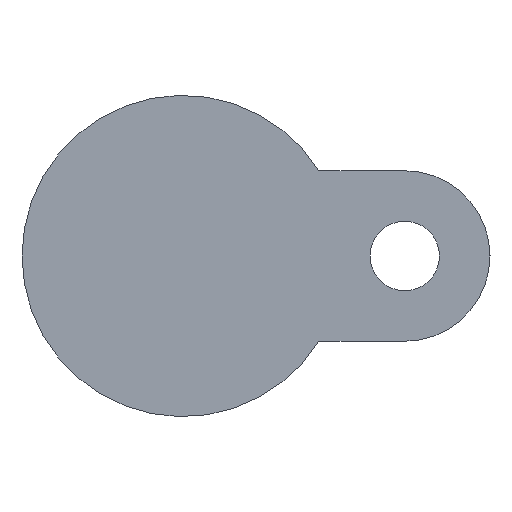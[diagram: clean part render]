
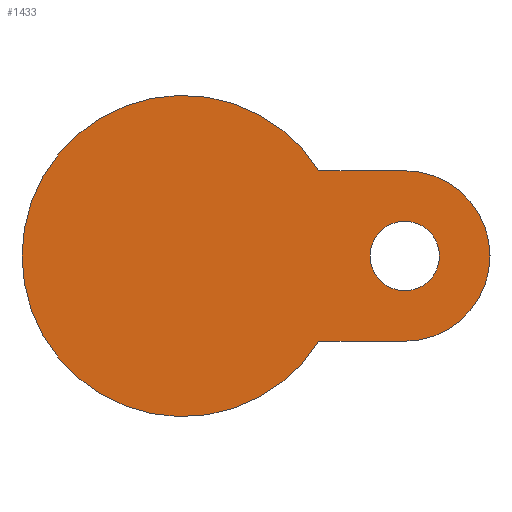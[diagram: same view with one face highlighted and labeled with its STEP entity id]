
A CAD part, front view. The second image highlights one B-rep face of the part: STEP entity #1433.
In plain terms, the highlighted planar face has unit normal (0, -1, 0).
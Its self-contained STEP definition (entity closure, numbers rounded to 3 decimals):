
#14 = CARTESIAN_POINT ( 'NONE',  ( 56., -23., 21.5 ) ) ;
#73 = EDGE_CURVE ( 'NONE', #140, #493, #752, .T. ) ;
#78 = EDGE_CURVE ( 'NONE', #493, #140, #994, .T. ) ;
#82 = EDGE_CURVE ( 'NONE', #566, #176, #768, .T. ) ;
#93 = CARTESIAN_POINT ( 'NONE',  ( 56., -23., 0. ) ) ;
#98 = ORIENTED_EDGE ( 'NONE', *, *, #82, .F. ) ;
#140 = VERTEX_POINT ( 'NONE', #453 ) ;
#153 = CARTESIAN_POINT ( 'NONE',  ( 0., -23., 0. ) ) ;
#176 = VERTEX_POINT ( 'NONE', #14 ) ;
#203 = ORIENTED_EDGE ( 'NONE', *, *, #73, .T. ) ;
#223 = CARTESIAN_POINT ( 'NONE',  ( 34.322, -23., 21.5 ) ) ;
#316 = CARTESIAN_POINT ( 'NONE',  ( 47.25, -23., 0. ) ) ;
#330 = DIRECTION ( 'NONE',  ( 1., 0., 0. ) ) ;
#344 = AXIS2_PLACEMENT_3D ( 'NONE', #1118, #552, #900 ) ;
#393 = AXIS2_PLACEMENT_3D ( 'NONE', #93, #1132, #537 ) ;
#453 = CARTESIAN_POINT ( 'NONE',  ( 64.75, -23., 0. ) ) ;
#462 = CARTESIAN_POINT ( 'NONE',  ( 40.5, -23., 0. ) ) ;
#466 = DIRECTION ( 'NONE',  ( 0., 1., 0. ) ) ;
#482 = CIRCLE ( 'NONE', #628, 40.5 ) ;
#493 = VERTEX_POINT ( 'NONE', #316 ) ;
#537 = DIRECTION ( 'NONE',  ( -1., 0., 0. ) ) ;
#552 = DIRECTION ( 'NONE',  ( 0., 1., 0. ) ) ;
#566 = VERTEX_POINT ( 'NONE', #223 ) ;
#572 = DIRECTION ( 'NONE',  ( 0., -1., 0. ) ) ;
#614 = ORIENTED_EDGE ( 'NONE', *, *, #1227, .F. ) ;
#622 = VECTOR ( 'NONE', #1310, 1000. ) ;
#628 = AXIS2_PLACEMENT_3D ( 'NONE', #153, #1431, #1072 ) ;
#629 = CARTESIAN_POINT ( 'NONE',  ( 30.5, -23., -21.5 ) ) ;
#655 = EDGE_CURVE ( 'NONE', #566, #884, #482, .T. ) ;
#685 = DIRECTION ( 'NONE',  ( 1., 0., 0. ) ) ;
#722 = DIRECTION ( 'NONE',  ( 1., 0., 0. ) ) ;
#740 = CARTESIAN_POINT ( 'NONE',  ( 56., -23., -21.5 ) ) ;
#752 = CIRCLE ( 'NONE', #393, 8.75 ) ;
#760 = VERTEX_POINT ( 'NONE', #740 ) ;
#765 = AXIS2_PLACEMENT_3D ( 'NONE', #1400, #466, #722 ) ;
#768 = LINE ( 'NONE', #1237, #1407 ) ;
#858 = LINE ( 'NONE', #629, #622 ) ;
#884 = VERTEX_POINT ( 'NONE', #1024 ) ;
#900 = DIRECTION ( 'NONE',  ( -1., 0., 0. ) ) ;
#975 = ORIENTED_EDGE ( 'NONE', *, *, #655, .T. ) ;
#983 = ORIENTED_EDGE ( 'NONE', *, *, #1082, .F. ) ;
#994 = CIRCLE ( 'NONE', #344, 8.75 ) ;
#1024 = CARTESIAN_POINT ( 'NONE',  ( 34.322, -23., -21.5 ) ) ;
#1072 = DIRECTION ( 'NONE',  ( 1., 0., 0. ) ) ;
#1082 = EDGE_CURVE ( 'NONE', #176, #760, #1435, .T. ) ;
#1118 = CARTESIAN_POINT ( 'NONE',  ( 56., -23., 0. ) ) ;
#1132 = DIRECTION ( 'NONE',  ( 0., 1., 0. ) ) ;
#1211 = EDGE_LOOP ( 'NONE', ( #1328, #203 ) ) ;
#1227 = EDGE_CURVE ( 'NONE', #760, #884, #858, .T. ) ;
#1237 = CARTESIAN_POINT ( 'NONE',  ( 30.5, -23., 21.5 ) ) ;
#1310 = DIRECTION ( 'NONE',  ( -1., 0., 0. ) ) ;
#1328 = ORIENTED_EDGE ( 'NONE', *, *, #78, .T. ) ;
#1366 = PLANE ( 'NONE',  #1437 ) ;
#1382 = FACE_OUTER_BOUND ( 'NONE', #1421, .T. ) ;
#1400 = CARTESIAN_POINT ( 'NONE',  ( 56., -23., 0. ) ) ;
#1407 = VECTOR ( 'NONE', #685, 1000. ) ;
#1421 = EDGE_LOOP ( 'NONE', ( #975, #614, #983, #98 ) ) ;
#1431 = DIRECTION ( 'NONE',  ( 0., -1., 0. ) ) ;
#1433 = ADVANCED_FACE ( 'NONE', ( #1469, #1382 ), #1366, .T. ) ;
#1435 = CIRCLE ( 'NONE', #765, 21.5 ) ;
#1437 = AXIS2_PLACEMENT_3D ( 'NONE', #462, #572, #330 ) ;
#1469 = FACE_BOUND ( 'NONE', #1211, .T. ) ;
